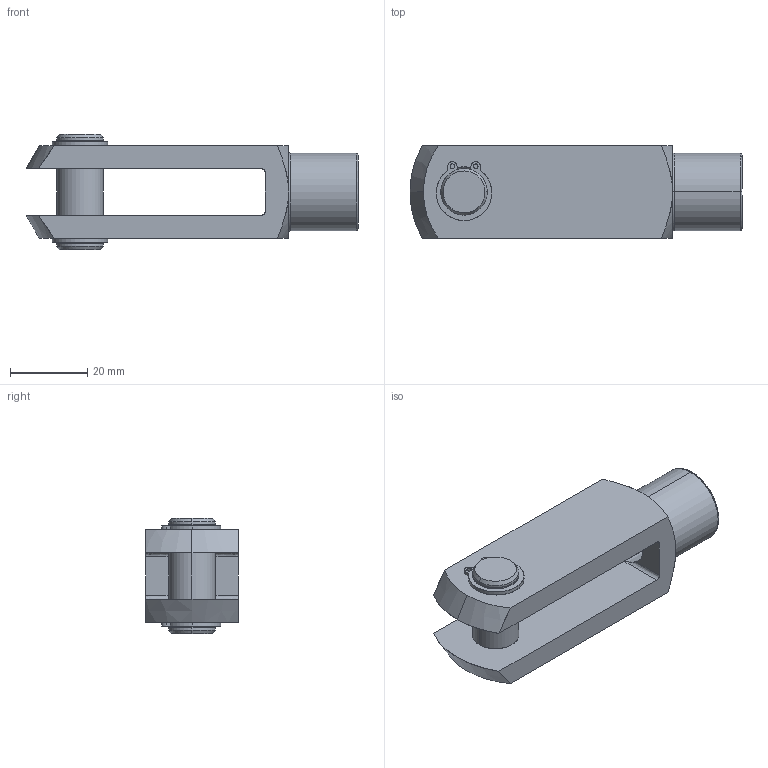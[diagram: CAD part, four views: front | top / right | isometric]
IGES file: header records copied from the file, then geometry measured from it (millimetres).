
Start section: SolidWorks IGES file using analytic representation for surfaces
Global section: file name: C:\Documents and Settings\IANO\My Documents\Wix and Auto CAD Work\CAD Models\Parametric Models\Wix Models\60000\65614_v2\65614_v2_IGES\65614.W0124.igs; native system: SolidWorks 2009; preprocessor: SolidWorks 2009; author: IANO; date: 140118.104039; units: millimetre
Bounding box: 86 x 24 x 30 mm (x, y, z)
Surface area: 12216 mm2 (no closed solid volume)
Topology: 0 solids, 0 shells, 95 faces, 1580 edges, 1580 vertices
Faces by surface type: revolution 63, bspline 32
